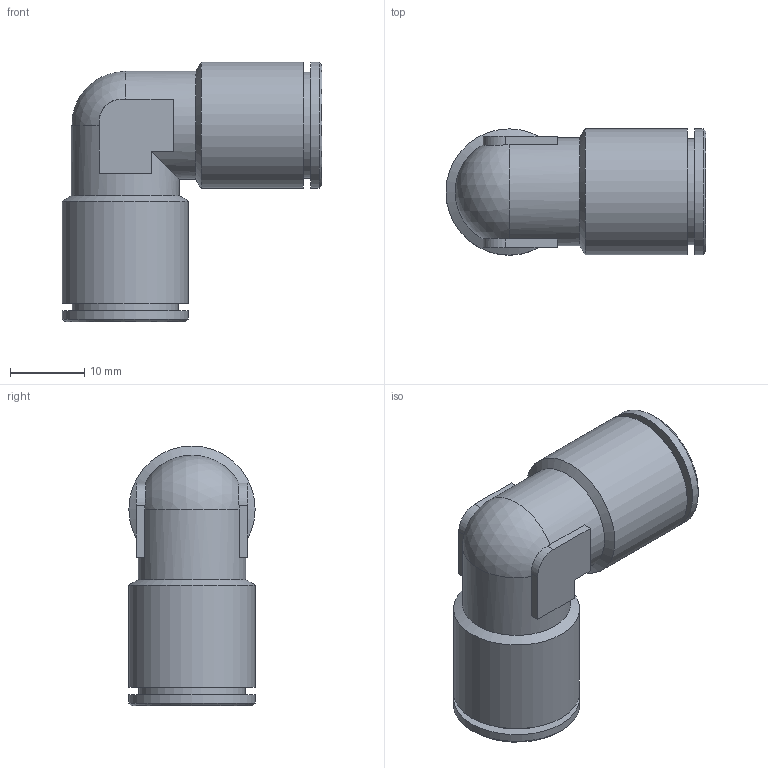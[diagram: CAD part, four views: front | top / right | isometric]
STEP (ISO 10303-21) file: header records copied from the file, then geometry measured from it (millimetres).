
FILE_DESCRIPTION(/* description */ (''),/* implementation_level */ '2;1');
FILE_NAME(/* name */ '200406-ES_STX04_12_12_07.06.16',/* time_stamp */ '2016-06-07T12:28:32+02:00',/* author */ (''),/* organization */ (''),/* preprocessor_version */ 'ST-DEVELOPER v14',/* originating_system */ 'HiCAD 2013 1802.4 Build 509',/* authorisation */ '');
FILE_SCHEMA (('AUTOMOTIVE_DESIGN { 1 0 10303 214 1 1 1 1 }'));
Length unit declared in the file: millimetre
Products named in the file (4): Root; R200406-ES; DR12
Assembly tree (3 placements, depth 2):
  Root
    R200406-ES
    DR12
    DR12
Bounding box: 35 x 17 x 35 mm (x, y, z)
Volume: 4307.8 mm3; surface area: 6937.5 mm2
Topology: 3 solids, 3 shells, 71 faces, 149 edges, 90 vertices
Faces by surface type: plane 26, cylinder 24, cone 20, sphere 1
Full cylindrical faces by diameter (mm): 10 x2, 12.15 x2, 12.2 x2, 13.2 x2, 14.3 x2, 14.5 x4, 17 x4
Entity records: 3289 total; most frequent: CARTESIAN_POINT 626, DIRECTION 324, PRESENTATION_STYLE_ASSIGNMENT 237, OVER_RIDING_STYLED_ITEM 234, COLOUR_RGB 224, DRAUGHTING_PRE_DEFINED_CURVE_FONT 222, CURVE_STYLE 222, ORIENTED_EDGE 222
